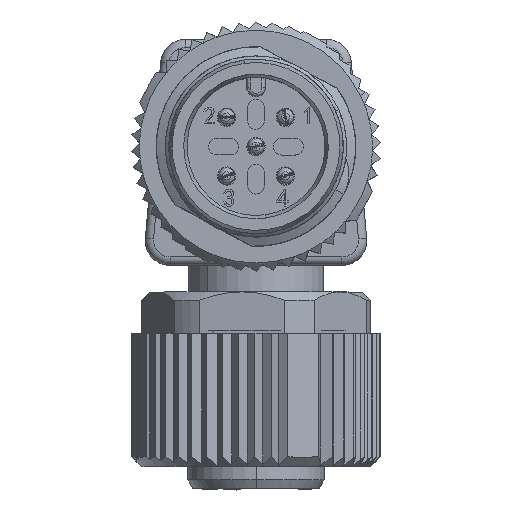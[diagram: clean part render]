
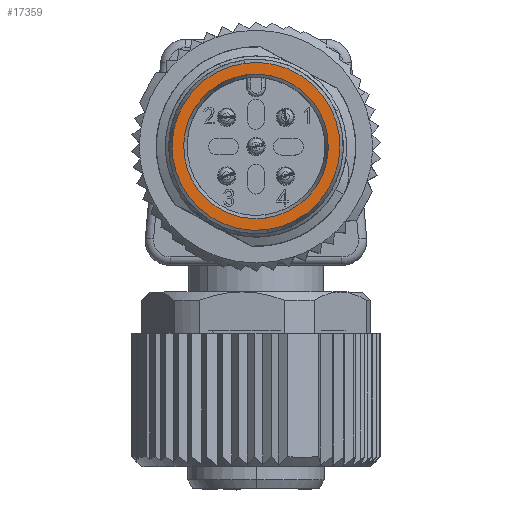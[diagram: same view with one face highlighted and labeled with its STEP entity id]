
A CAD part, top view. The second image highlights one B-rep face of the part: STEP entity #17359.
In plain terms, the highlighted planar face has unit normal (0, 0, 1).
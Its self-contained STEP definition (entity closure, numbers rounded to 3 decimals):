
#1970 = ORIENTED_EDGE ( 'NONE', *, *, #66666, .F. ) ;
#2339 = CARTESIAN_POINT ( 'NONE',  ( 0., 0., 153.4 ) ) ;
#5087 = EDGE_CURVE ( 'NONE', #20605, #20450, #11708, .T. ) ;
#8662 = CIRCLE ( 'NONE', #73437, 4.35 ) ;
#10197 = PLANE ( 'NONE',  #68424 ) ;
#11708 = CIRCLE ( 'NONE', #24426, 4.35 ) ;
#12581 = AXIS2_PLACEMENT_3D ( 'NONE', #49139, #32416, #56682 ) ;
#13515 = CIRCLE ( 'NONE', #17326, 5.05 ) ;
#14668 = DIRECTION ( 'NONE',  ( 0.13, -0.991, 0. ) ) ;
#15927 = DIRECTION ( 'NONE',  ( 0., 0., -1. ) ) ;
#17326 = AXIS2_PLACEMENT_3D ( 'NONE', #71181, #15927, #77545 ) ;
#17332 = VERTEX_POINT ( 'NONE', #67164 ) ;
#17359 = ADVANCED_FACE ( 'NONE', ( #77784, #71034 ), #10197, .T. ) ;
#20050 = CARTESIAN_POINT ( 'NONE',  ( -0.659, 5.007, 153.4 ) ) ;
#20450 = VERTEX_POINT ( 'NONE', #22566 ) ;
#20605 = VERTEX_POINT ( 'NONE', #24897 ) ;
#22566 = CARTESIAN_POINT ( 'NONE',  ( 0.568, -4.313, 153.4 ) ) ;
#24426 = AXIS2_PLACEMENT_3D ( 'NONE', #27272, #39594, #76188 ) ;
#24897 = CARTESIAN_POINT ( 'NONE',  ( -0.568, 4.313, 153.4 ) ) ;
#26596 = DIRECTION ( 'NONE',  ( 0., 0., -1. ) ) ;
#27272 = CARTESIAN_POINT ( 'NONE',  ( 0., 0., 153.4 ) ) ;
#32349 = ORIENTED_EDGE ( 'NONE', *, *, #50999, .F. ) ;
#32416 = DIRECTION ( 'NONE',  ( 0., 0., -1. ) ) ;
#32599 = VERTEX_POINT ( 'NONE', #20050 ) ;
#39594 = DIRECTION ( 'NONE',  ( 0., 0., -1. ) ) ;
#41762 = CIRCLE ( 'NONE', #12581, 5.05 ) ;
#42387 = ORIENTED_EDGE ( 'NONE', *, *, #49588, .T. ) ;
#42551 = EDGE_LOOP ( 'NONE', ( #42387, #43229 ) ) ;
#43229 = ORIENTED_EDGE ( 'NONE', *, *, #5087, .T. ) ;
#49139 = CARTESIAN_POINT ( 'NONE',  ( 0., 0., 153.4 ) ) ;
#49588 = EDGE_CURVE ( 'NONE', #20450, #20605, #8662, .T. ) ;
#50999 = EDGE_CURVE ( 'NONE', #32599, #17332, #41762, .T. ) ;
#53527 = CARTESIAN_POINT ( 'NONE',  ( -3.324, -3.323, 153.4 ) ) ;
#54682 = EDGE_LOOP ( 'NONE', ( #32349, #1970 ) ) ;
#56682 = DIRECTION ( 'NONE',  ( -0.13, 0.991, 0. ) ) ;
#64666 = DIRECTION ( 'NONE',  ( 0., 0., 1. ) ) ;
#65055 = DIRECTION ( 'NONE',  ( 1., 0., 0. ) ) ;
#66666 = EDGE_CURVE ( 'NONE', #17332, #32599, #13515, .T. ) ;
#67164 = CARTESIAN_POINT ( 'NONE',  ( 0.659, -5.007, 153.4 ) ) ;
#68424 = AXIS2_PLACEMENT_3D ( 'NONE', #53527, #64666, #65055 ) ;
#71034 = FACE_BOUND ( 'NONE', #42551, .T. ) ;
#71181 = CARTESIAN_POINT ( 'NONE',  ( 0., 0., 153.4 ) ) ;
#73437 = AXIS2_PLACEMENT_3D ( 'NONE', #2339, #26596, #14668 ) ;
#76188 = DIRECTION ( 'NONE',  ( 0.13, -0.991, 0. ) ) ;
#77545 = DIRECTION ( 'NONE',  ( -0.13, 0.991, 0. ) ) ;
#77784 = FACE_OUTER_BOUND ( 'NONE', #54682, .T. ) ;
